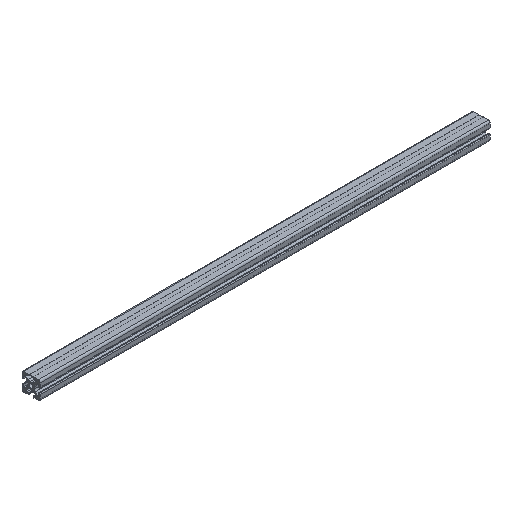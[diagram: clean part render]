
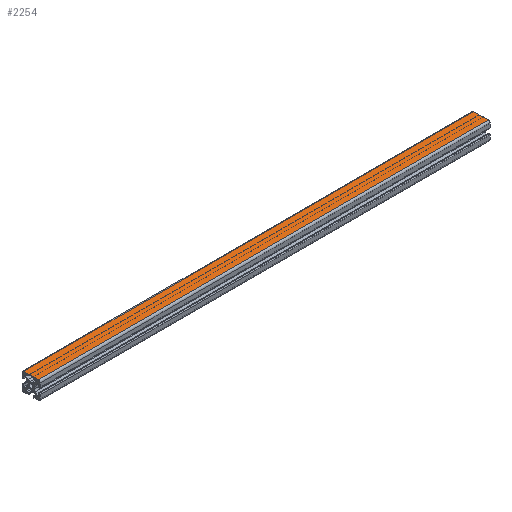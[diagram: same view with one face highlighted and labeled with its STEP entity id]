
A CAD part, isometric view. The second image highlights one B-rep face of the part: STEP entity #2254.
In plain terms, the highlighted planar face has unit normal (0, 0, 1).
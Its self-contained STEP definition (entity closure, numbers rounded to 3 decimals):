
#69 = VECTOR ( 'NONE', #2695, 1000. ) ;
#233 = DIRECTION ( 'NONE',  ( 0., 0., -1. ) ) ;
#286 = EDGE_CURVE ( 'NONE', #1710, #1997, #595, .T. ) ;
#341 = CARTESIAN_POINT ( 'NONE',  ( 0., -8., 10. ) ) ;
#351 = ORIENTED_EDGE ( 'NONE', *, *, #286, .T. ) ;
#459 = VECTOR ( 'NONE', #1458, 1000. ) ;
#470 = PLANE ( 'NONE',  #2149 ) ;
#487 = ORIENTED_EDGE ( 'NONE', *, *, #1361, .T. ) ;
#595 = LINE ( 'NONE', #2012, #459 ) ;
#709 = CARTESIAN_POINT ( 'NONE',  ( 500., -8., 10. ) ) ;
#825 = DIRECTION ( 'NONE',  ( -1., 0., 0. ) ) ;
#883 = DIRECTION ( 'NONE',  ( -1., 0., 0. ) ) ;
#1015 = LINE ( 'NONE', #2236, #69 ) ;
#1201 = CARTESIAN_POINT ( 'NONE',  ( 500., 8., 10. ) ) ;
#1216 = CARTESIAN_POINT ( 'NONE',  ( 0., 8., 10. ) ) ;
#1257 = CARTESIAN_POINT ( 'NONE',  ( 500., 8., 10. ) ) ;
#1284 = VECTOR ( 'NONE', #2420, 1000. ) ;
#1361 = EDGE_CURVE ( 'NONE', #1403, #1710, #2289, .T. ) ;
#1403 = VERTEX_POINT ( 'NONE', #1201 ) ;
#1458 = DIRECTION ( 'NONE',  ( 0., -1., 0. ) ) ;
#1475 = EDGE_LOOP ( 'NONE', ( #351, #2047, #2659, #487 ) ) ;
#1491 = FACE_OUTER_BOUND ( 'NONE', #1475, .T. ) ;
#1698 = EDGE_CURVE ( 'NONE', #2701, #1997, #1015, .T. ) ;
#1710 = VERTEX_POINT ( 'NONE', #1216 ) ;
#1739 = LINE ( 'NONE', #2141, #1284 ) ;
#1997 = VERTEX_POINT ( 'NONE', #341 ) ;
#2012 = CARTESIAN_POINT ( 'NONE',  ( 0., 8., 10. ) ) ;
#2047 = ORIENTED_EDGE ( 'NONE', *, *, #1698, .F. ) ;
#2141 = CARTESIAN_POINT ( 'NONE',  ( 500., 8., 10. ) ) ;
#2145 = VECTOR ( 'NONE', #825, 1000. ) ;
#2149 = AXIS2_PLACEMENT_3D ( 'NONE', #1257, #233, #883 ) ;
#2236 = CARTESIAN_POINT ( 'NONE',  ( 500., -8., 10. ) ) ;
#2254 = ADVANCED_FACE ( 'NONE', ( #1491 ), #470, .F. ) ;
#2289 = LINE ( 'NONE', #2691, #2145 ) ;
#2318 = EDGE_CURVE ( 'NONE', #1403, #2701, #1739, .T. ) ;
#2420 = DIRECTION ( 'NONE',  ( 0., -1., 0. ) ) ;
#2659 = ORIENTED_EDGE ( 'NONE', *, *, #2318, .F. ) ;
#2691 = CARTESIAN_POINT ( 'NONE',  ( 500., 8., 10. ) ) ;
#2695 = DIRECTION ( 'NONE',  ( -1., 0., 0. ) ) ;
#2701 = VERTEX_POINT ( 'NONE', #709 ) ;
